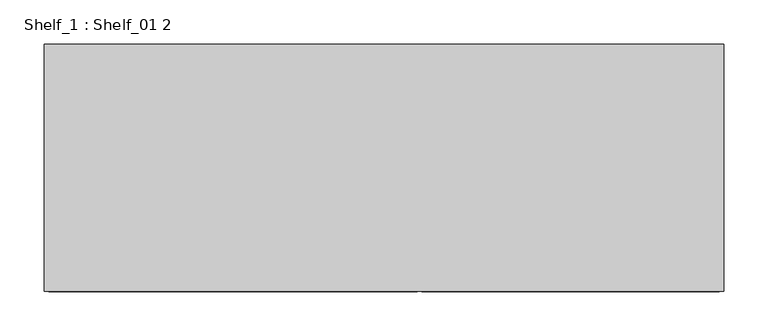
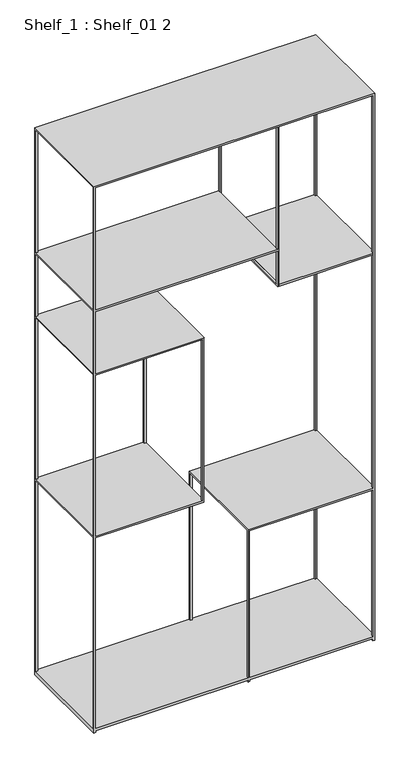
"""IFC4 building model written with IfcOpenShell, lengths in millimetres: furniture geometry, Shelf_1 : Shelf_01 2."""

from ifc_helpers import new_model, si_unit, frame, origin, place, context, project, spatial, polyline, outline, extrude, faceted_brep, source, transform, mapped, element, save


def shelf_1_shelf_01_2_4a3e9cca(model_context):
    return source(origin(), model_context, "Body", "SolidModel", [
        faceted_brep([(117.5, 134.0325681, 1568.3832674), (122.5, 134.0325681, 1568.3832674), (122.5, 139.0325681, 1568.3832674), (377.5, 139.0325681, 1568.3832674), (377.5, 134.0325681, 1568.3832674), (382.5, 134.0325681, 1568.3832674), (382.5, -134.0325681, 1568.3832674), (377.5, -134.0325681, 1568.3832674), (377.5, -139.0325681, 1568.3832674), (122.5, -139.0325681, 1568.3832674), (122.5, -134.0325681, 1568.3832674), (117.5, -134.0325681, 1568.3832674), (117.5, -139.0325681, 1568.3832674), (-377.5, -139.0325681, 1568.3832674), (-377.5, -134.0325681, 1568.3832674), (-382.5, -134.0325681, 1568.3832674), (-382.5, 134.0325681, 1568.3832674), (-377.5, 134.0325681, 1568.3832674), (-377.5, 139.0325681, 1568.3832674), (117.5, 139.0325681, 1568.3832674), (-382.5, 139.0325681, 1573.3832674), (-382.5, -139.0325681, 1573.3832674), (382.5, -139.0325681, 1573.3832674), (382.5, 139.0325681, 1573.3832674), (-377.5, 139.0325681, 0.0), (-382.5, 139.0325681, 0.0), (382.5, 139.0325681, 0.0), (377.5, 139.0325681, 0.0), (377.5, 139.0325681, 5.0), (42.5, 139.0325681, 5.0), (42.5, 139.0325681, 0.0), (37.5, 139.0325681, 0.0), (37.5, 139.0325681, 5.0), (-377.5, 139.0325681, 5.0), (122.5, 139.0325681, 1110.0), (117.5, 139.0325681, 1110.0), (117.5, 139.0325681, 1211.8437172), (-377.5, 139.0325681, 1211.8437172), (-377.5, 139.0325681, 1033.3832674), (-82.5, 139.0325681, 1033.3832674), (-82.5, 139.0325681, 560.0), (-377.5, 139.0325681, 560.0), (-377.5, 139.0325681, 11.6099775), (37.5, 139.0325681, 11.6099775), (37.5, 139.0325681, 438.3832674), (377.5, 139.0325681, 438.3832674), (42.5, 139.0325681, 11.6099775), (377.5, 139.0325681, 11.6099775), (377.5, 139.0325681, 433.3832674), (42.5, 139.0325681, 433.3832674), (-377.5, 139.0325681, 565.0), (-87.5, 139.0325681, 565.0), (-87.5, 139.0325681, 1028.3832674), (-377.5, 139.0325681, 1028.3832674), (-377.5, 139.0325681, 1217.166505), (117.5, 139.0325681, 1217.166505), (-382.5, -139.0325681, 0.0), (-382.5, -134.0325681, 1217.166505), (-382.5, 134.0325681, 1217.166505), (-382.5, -134.0325681, 11.6099775), (-382.5, 134.0325681, 11.6099775), (-382.5, 134.0325681, 560.0), (-382.5, -134.0325681, 560.0), (-382.5, -134.0325681, 565.0), (-382.5, 134.0325681, 565.0), (-382.5, 134.0325681, 1028.3832674), (-382.5, -134.0325681, 1028.3832674), (-382.5, 134.0325681, 1033.3832674), (-382.5, 134.0325681, 1211.8437172), (-382.5, -134.0325681, 1211.8437172), (-382.5, -134.0325681, 1033.3832674), (-377.5, -139.0325681, 0.0), (-377.5, -139.0325681, 5.0), (37.5, -139.0325681, 5.0), (37.5, -139.0325681, 0.0), (42.5, -139.0325681, 0.0), (42.5, -139.0325681, 5.0), (377.5, -139.0325681, 5.0), (377.5, -139.0325681, 0.0), (382.5, -139.0325681, 0.0), (117.5, -139.0325681, 1110.0), (122.5, -139.0325681, 1110.0), (377.5, -139.0325681, 438.3832674), (37.5, -139.0325681, 438.3832674), (37.5, -139.0325681, 11.6099775), (-377.5, -139.0325681, 11.6099775), (-377.5, -139.0325681, 560.0), (-82.5, -139.0325681, 560.0), (-82.5, -139.0325681, 1033.3832674), (-377.5, -139.0325681, 1033.3832674), (-377.5, -139.0325681, 1211.8437172), (117.5, -139.0325681, 1211.8437172), (377.5, -139.0325681, 11.6099775), (42.5, -139.0325681, 11.6099775), (42.5, -139.0325681, 433.3832674), (377.5, -139.0325681, 433.3832674), (-87.5, -139.0325681, 565.0), (-377.5, -139.0325681, 565.0), (-377.5, -139.0325681, 1028.3832674), (-87.5, -139.0325681, 1028.3832674), (117.5, -139.0325681, 1217.166505), (-377.5, -139.0325681, 1217.166505), (382.5, 134.0325681, 438.3832674), (382.5, -134.0325681, 438.3832674), (382.5, 134.0325681, 11.6099775), (382.5, -134.0325681, 11.6099775), (382.5, -134.0325681, 433.3832674), (382.5, 134.0325681, 433.3832674), (117.5, 134.0325681, 1115.0), (122.5, 134.0325681, 1115.0), (117.5, 134.0325681, 1217.166505), (117.5, 134.0325681, 1211.8437172), (117.5, -134.0325681, 1115.0), (122.5, -134.0325681, 1115.0), (117.5, -134.0325681, 1211.8437172), (117.5, -134.0325681, 1217.166505), (-377.5, 134.0325681, 1217.166505), (-377.5, 134.0325681, 11.6099775), (-377.5, 134.0325681, 560.0), (-377.5, 134.0325681, 565.0), (-377.5, 134.0325681, 1028.3832674), (-377.5, 134.0325681, 1033.3832674), (-377.5, 134.0325681, 1211.8437172), (-377.5, -134.0325681, 1217.166505), (-377.5, -134.0325681, 11.6099775), (-377.5, -134.0325681, 560.0), (-377.5, -134.0325681, 565.0), (-377.5, -134.0325681, 1028.3832674), (-377.5, -134.0325681, 1033.3832674), (-377.5, -134.0325681, 1211.8437172), (-377.5, 134.0325681, 5.0), (-377.5, -134.0325681, 5.0), (377.5, 134.0325681, 438.3832674), (377.5, 134.0325681, 11.6099775), (377.5, 134.0325681, 433.3832674), (377.5, -134.0325681, 438.3832674), (377.5, -134.0325681, 11.6099775), (377.5, -134.0325681, 433.3832674), (377.5, -134.0325681, 5.0), (377.5, 134.0325681, 5.0), (-82.5, 134.0325681, 1028.3832674), (-87.5, 134.0325681, 1028.3832674), (-87.5, 134.0325681, 565.0), (-82.5, 134.0325681, 565.0), (-87.5, -134.0325681, 565.0), (-82.5, -134.0325681, 565.0), (-87.5, -134.0325681, 1028.3832674), (-82.5, -134.0325681, 1028.3832674), (42.5, 134.0325681, 433.3832674), (37.5, 134.0325681, 433.3832674), (37.5, 134.0325681, 11.6099775), (42.5, 134.0325681, 11.6099775), (37.5, -134.0325681, 433.3832674), (42.5, -134.0325681, 433.3832674), (42.5, -134.0325681, 11.6099775), (37.5, -134.0325681, 11.6099775), (37.5, -134.0325681, 5.0), (37.5, 134.0325681, 5.0), (42.5, 134.0325681, 5.0), (42.5, -134.0325681, 5.0)], [[[0, 1, 2, 3, 4, 5, 6, 7, 8, 9, 10, 11, 12, 13, 14, 15, 16, 17, 18, 19]], [[20, 21, 22, 23]], [[24, 25, 20, 23, 26, 27, 28, 29, 30, 31, 32, 33], [34, 35, 36, 37, 38, 39, 40, 41, 42, 43, 44, 45, 3, 2], [46, 47, 48, 49], [50, 51, 52, 53], [18, 54, 55, 19]], [[21, 20, 25, 56], [16, 15, 57, 58], [59, 60, 61, 62], [63, 64, 65, 66], [67, 68, 69, 70]], [[21, 56, 71, 72, 73, 74, 75, 76, 77, 78, 79, 22], [80, 81, 9, 8, 82, 83, 84, 85, 86, 87, 88, 89, 90, 91], [92, 93, 94, 95], [96, 97, 98, 99], [12, 100, 101, 13]], [[23, 22, 79, 26], [6, 5, 102, 103], [104, 105, 106, 107]], [[108, 109, 1, 0, 110, 111]], [[109, 108, 112, 113]], [[35, 34, 81, 80]], [[113, 112, 114, 115, 11, 10]], [[12, 11, 115, 100]], [[0, 19, 55, 110]], [[112, 108, 111, 36, 35, 80, 91, 114]], [[1, 109, 113, 10, 9, 81, 34, 2]], [[17, 16, 58, 116]], [[60, 117, 118, 61]], [[64, 119, 120, 65]], [[67, 121, 122, 68]], [[25, 24, 71, 56]], [[15, 14, 123, 57]], [[124, 59, 62, 125]], [[126, 63, 66, 127]], [[128, 70, 69, 129]], [[14, 13, 101, 123]], [[18, 17, 116, 54]], [[71, 24, 33, 130, 131, 72]], [[117, 42, 41, 118]], [[85, 124, 125, 86]], [[119, 50, 53, 120]], [[97, 126, 127, 98]], [[121, 38, 37, 122]], [[89, 128, 129, 90]], [[5, 4, 132, 102]], [[133, 104, 107, 134]], [[27, 26, 79, 78]], [[7, 6, 103, 135]], [[105, 136, 137, 106]], [[4, 3, 45, 132]], [[8, 7, 135, 82]], [[27, 78, 77, 138, 139, 28]], [[47, 133, 134, 48]], [[136, 92, 95, 137]], [[140, 141, 142, 143]], [[143, 142, 51, 50, 119, 64, 63, 126, 97, 96, 144, 145]], [[40, 87, 86, 125, 62, 61, 118, 41]], [[145, 144, 146, 147]], [[142, 141, 52, 51]], [[146, 144, 96, 99]], [[141, 140, 147, 146, 99, 98, 127, 66, 65, 120, 53, 52]], [[87, 40, 39, 88], [140, 143, 145, 147]], [[88, 39, 38, 121, 67, 70, 128, 89]], [[148, 149, 150, 151]], [[31, 30, 75, 74]], [[152, 153, 154, 155]], [[31, 74, 73, 156, 157, 32]], [[83, 44, 43, 150, 149, 152, 155, 84]], [[149, 148, 49, 48, 134, 107, 106, 137, 95, 94, 153, 152]], [[148, 151, 46, 49]], [[75, 30, 29, 158, 159, 76]], [[154, 153, 94, 93]], [[44, 83, 82, 135, 103, 102, 132, 45]], [[29, 28, 139, 138, 77, 76, 159, 158]], [[33, 32, 157, 156, 73, 72, 131, 130]], [[105, 104, 133, 47, 46, 151, 150, 43, 42, 117, 60, 59, 124, 85, 84, 155, 154, 93, 92, 136]], [[37, 36, 111, 114, 91, 90, 129, 69, 68, 122]], [[55, 54, 116, 58, 57, 123, 101, 100, 115, 110]], [[114, 111, 110, 115]]]),
        extrude(outline(polyline([(382.5, 139.0325681), (382.5, -139.0325681), (122.5, -139.0325681), (122.5, 139.0325681), (382.5, 139.0325681)])), frame((0.0, 0.0, 1110.0), z_axis=(0.0, 0.0, 1.0), x_axis=(1.0, 0.0, 0.0)), (0.0, 0.0, 1.0), 5.0),
    ])


if __name__ == "__main__":
    model = new_model("IFC4")
    model_context = context("Model", 3, world=origin())
    ifc_project = project(units=[si_unit("LENGTHUNIT", "METRE", prefix="MILLI")], contexts=[model_context])
    site = spatial("IfcSite", under=ifc_project)
    building = spatial("IfcBuilding", under=site)
    placement = place(None, origin())
    shelf_1_shelf_01_2_shape = shelf_1_shelf_01_2_4a3e9cca(model_context)
    element("IfcFurniture", 1, ObjectType="Shelf_1 : Shelf_01 2", at=placement, inside=building, context=model_context, shape_type="MappedRepresentation", body=[
        mapped(shelf_1_shelf_01_2_shape, transform((0.0, 0.0, 0.0), x_axis=(1.0, 0.0, 0.0), y_axis=(0.0, 1.0, 0.0), z_axis=(0.0, 0.0, 1.0))),
    ])
    save(model, "model.ifc")
